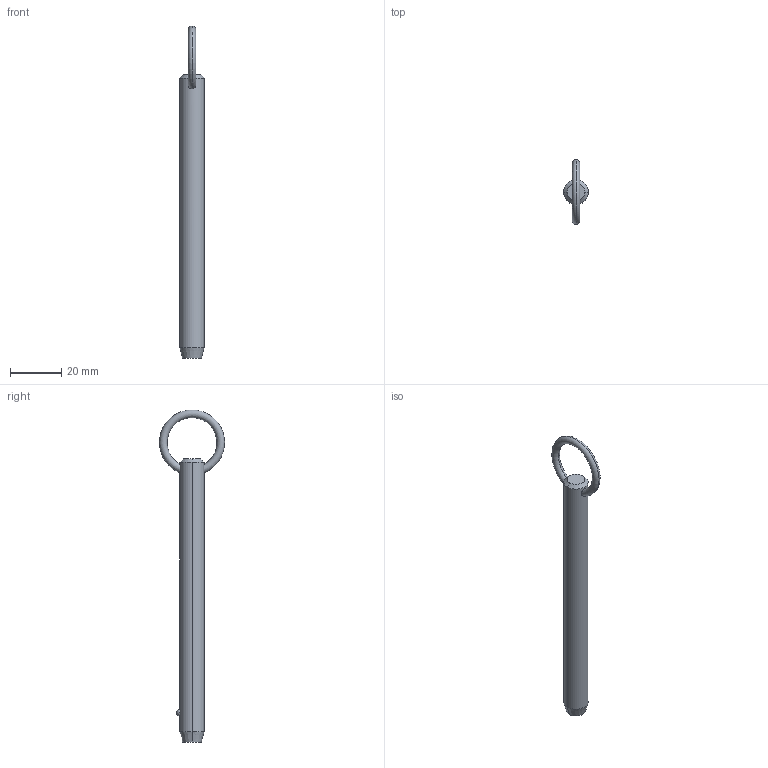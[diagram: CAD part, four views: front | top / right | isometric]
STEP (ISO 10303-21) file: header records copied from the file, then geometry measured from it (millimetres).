
FILE_DESCRIPTION (( 'STEP AP203' ), '1' );
FILE_NAME ('P1250.037-360.step', '2019-07-29T20:05:13', ( '' ), ( '' ), 'SwSTEP 2.0', 'SolidWorks 2017', '' );
FILE_SCHEMA (( 'CONFIG_CONTROL_DESIGN' ));
Length unit declared in the file: millimetre
Products named in the file (1): P1250.037-360
Bounding box: 9.52 x 25.39 x 129.5 mm (x, y, z)
Volume: 8213.1 mm3; surface area: 3945.5 mm2
Topology: 1 solids, 1 shells, 12 faces, 28 edges, 17 vertices
Faces by surface type: cone 4, torus 2, sphere 2, cylinder 2, plane 2
Entity records: 523 total; most frequent: CARTESIAN_POINT 190, DIRECTION 56, ORIENTED_EDGE 48, AXIS2_PLACEMENT_3D 25, EDGE_CURVE 24, EDGE_LOOP 15, VERTEX_POINT 15, ADVANCED_FACE 12
